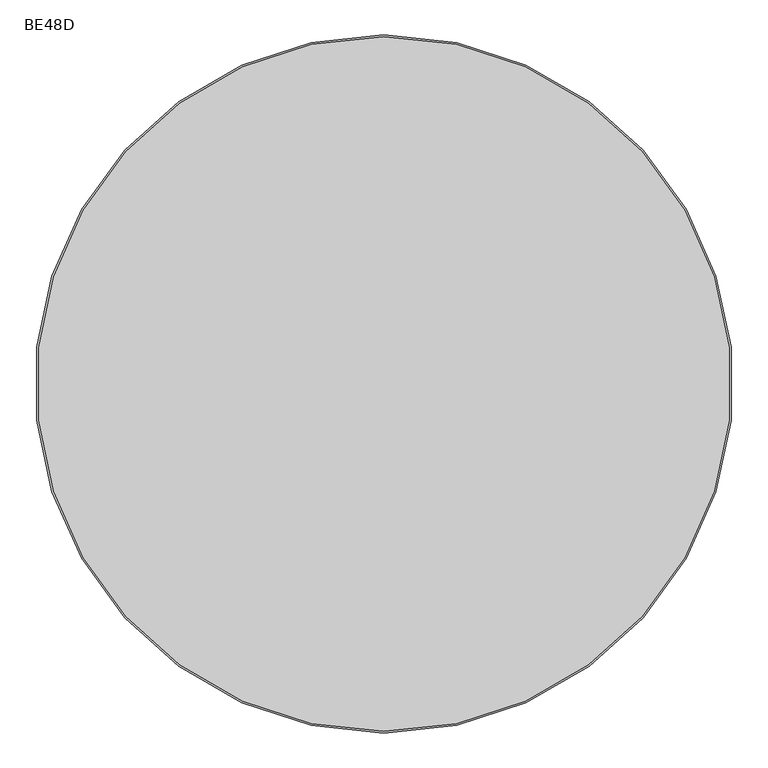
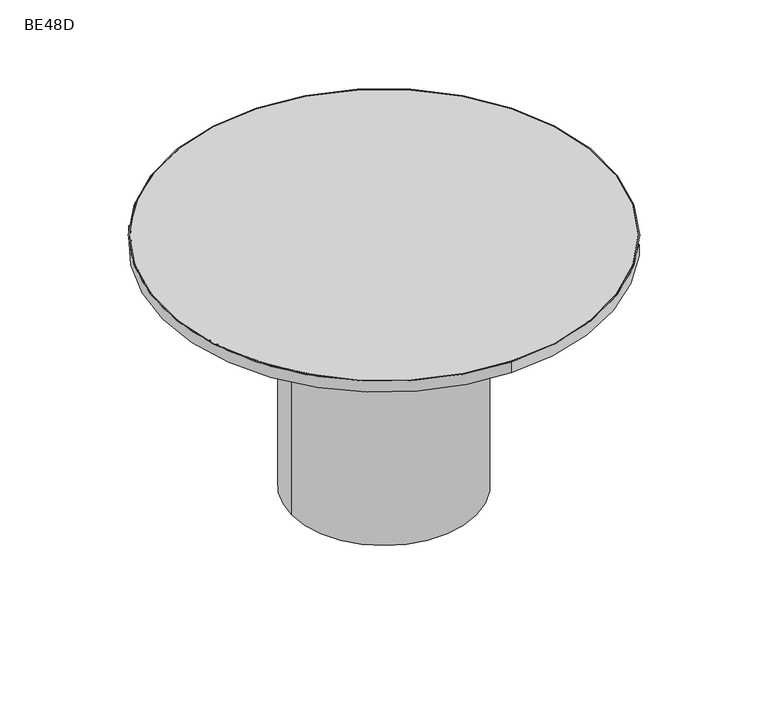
"""IFC4 building model written with IfcOpenShell, lengths in millimetres: furniture geometry, ERG-Beta-Conference_Table-Round : BE48D."""

from ifc_helpers import new_model, si_unit, point, frame, frame_2d, origin, origin_with_axes, place, context, project, spatial, circle_curve, trimmed, segment, composite_curve, outline, extrude, source, transform, mapped, element, save


def be48d_4231b625(model_context):
    return source(origin(), model_context, "Body", "SweptSolid", [
        extrude(outline(composite_curve([segment(trimmed(circle_curve(frame_2d((391.6701583, 204.9813687)), 9.525), [point((382.1451583, 204.9813687))], [point((401.1951583, 204.9813687))], False, "CARTESIAN"), True, "CONTINUOUS"), segment(trimmed(circle_curve(frame_2d((391.6701583, 204.9813687)), 9.525), [point((401.1951583, 204.9813687))], [point((382.1451583, 204.9813687))], False, "CARTESIAN"), True, "CONTINUOUS")], self_intersect=False)), origin_with_axes(), (0.0, 0.0, 1.0), 9.525),
        extrude(outline(composite_curve([segment(trimmed(circle_curve(frame_2d((694.1798417, 204.9813687)), 9.525), [point((684.6548417, 204.9813687))], [point((703.7048417, 204.9813687))], False, "CARTESIAN"), True, "CONTINUOUS"), segment(trimmed(circle_curve(frame_2d((694.1798417, 204.9813687)), 9.525), [point((703.7048417, 204.9813687))], [point((684.6548417, 204.9813687))], False, "CARTESIAN"), True, "CONTINUOUS")], self_intersect=False)), origin_with_axes(), (0.0, 0.0, 1.0), 9.525),
        extrude(outline(composite_curve([segment(trimmed(circle_curve(frame_2d((391.6701583, -97.5283147)), 9.525), [point((382.1451583, -97.5283147))], [point((401.1951583, -97.5283147))], False, "CARTESIAN"), True, "CONTINUOUS"), segment(trimmed(circle_curve(frame_2d((391.6701583, -97.5283147)), 9.525), [point((401.1951583, -97.5283147))], [point((382.1451583, -97.5283147))], False, "CARTESIAN"), True, "CONTINUOUS")], self_intersect=False)), origin_with_axes(), (0.0, 0.0, 1.0), 9.525),
        extrude(outline(composite_curve([segment(trimmed(circle_curve(frame_2d((694.1798417, -97.5283147)), 9.525), [point((684.6548417, -97.5283147))], [point((703.7048417, -97.5283147))], False, "CARTESIAN"), True, "CONTINUOUS"), segment(trimmed(circle_curve(frame_2d((694.1798417, -97.5283147)), 9.525), [point((703.7048417, -97.5283147))], [point((684.6548417, -97.5283147))], False, "CARTESIAN"), True, "CONTINUOUS")], self_intersect=False)), origin_with_axes(), (0.0, 0.0, 1.0), 9.525),
        extrude(outline(composite_curve([segment(trimmed(circle_curve(frame_2d((542.925, 53.726527)), 254.0), [point((288.925, 53.726527))], [point((796.925, 53.726527))], False, "CARTESIAN"), True, "CONTINUOUS"), segment(trimmed(circle_curve(frame_2d((542.925, 53.726527)), 254.0), [point((796.925, 53.726527))], [point((288.925, 53.726527))], False, "CARTESIAN"), True, "CONTINUOUS")], self_intersect=False)), frame((0.0, 0.0, 9.525), z_axis=(0.0, 0.0, 1.0), x_axis=(1.0, 0.0, 0.0)), (0.0, 0.0, 1.0), 695.3249758),
        extrude(outline(composite_curve([segment(trimmed(circle_curve(frame_2d((542.925, 53.726527)), 606.425), [point((542.925, -552.698473))], [point((542.925, 660.151527))], False, "CARTESIAN"), True, "CONTINUOUS"), segment(trimmed(circle_curve(frame_2d((542.925, 53.726527)), 606.425), [point((542.925, 660.151527))], [point((542.925, -552.698473))], False, "CARTESIAN"), True, "CONTINUOUS")], self_intersect=False)), frame((0.0, 0.0, 704.85), z_axis=(0.0, 0.0, 1.0), x_axis=(1.0, 0.0, 0.0)), (0.0, 0.0, 1.0), 31.75),
        extrude(outline(composite_curve([segment(trimmed(circle_curve(frame_2d((542.925, 53.726527)), 609.6), [point((542.925, -555.873473))], [point((542.925, 663.326527))], False, "CARTESIAN"), True, "CONTINUOUS"), segment(trimmed(circle_curve(frame_2d((542.925, 53.726527)), 609.6), [point((542.925, 663.326527))], [point((542.925, -555.873473))], False, "CARTESIAN"), True, "CONTINUOUS")], self_intersect=False), holes=[composite_curve([segment(trimmed(circle_curve(frame_2d((542.925, 53.726527)), 606.425), [point((542.925, 660.151527))], [point((542.925, -552.698473))], True, "CARTESIAN"), True, "CONTINUOUS"), segment(trimmed(circle_curve(frame_2d((542.925, 53.726527)), 606.425), [point((542.925, -552.698473))], [point((542.925, 660.151527))], True, "CARTESIAN"), True, "CONTINUOUS")], self_intersect=False)]), frame((0.0, 0.0, 704.85), z_axis=(0.0, 0.0, 1.0), x_axis=(1.0, 0.0, 0.0)), (0.0, 0.0, 1.0), 31.75),
    ])


if __name__ == "__main__":
    model = new_model("IFC4")
    model_context = context("Model", 3, world=origin())
    ifc_project = project(units=[si_unit("LENGTHUNIT", "METRE", prefix="MILLI")], contexts=[model_context])
    site = spatial("IfcSite", under=ifc_project)
    building = spatial("IfcBuilding", under=site)
    placement = place(None, origin())
    be48d_shape = be48d_4231b625(model_context)
    element("IfcFurniture", 1, ObjectType="ERG-Beta-Conference_Table-Round : BE48D", at=placement, inside=building, context=model_context, shape_type="MappedRepresentation", body=[
        mapped(be48d_shape, transform((0.0, 0.0, 0.0), x_axis=(1.0, 0.0, 0.0), y_axis=(0.0, 1.0, 0.0), z_axis=(0.0, 0.0, 1.0))),
    ])
    save(model, "model.ifc")
